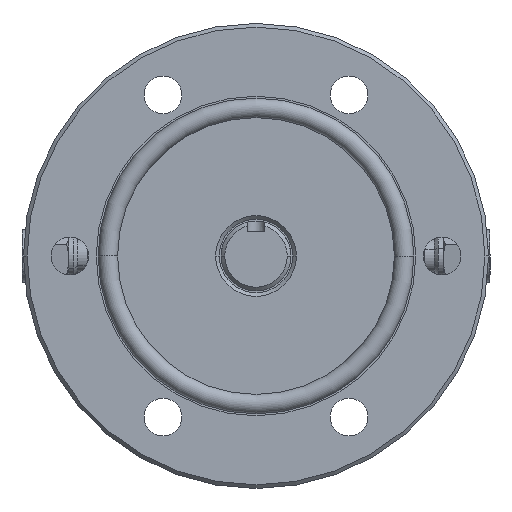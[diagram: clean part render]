
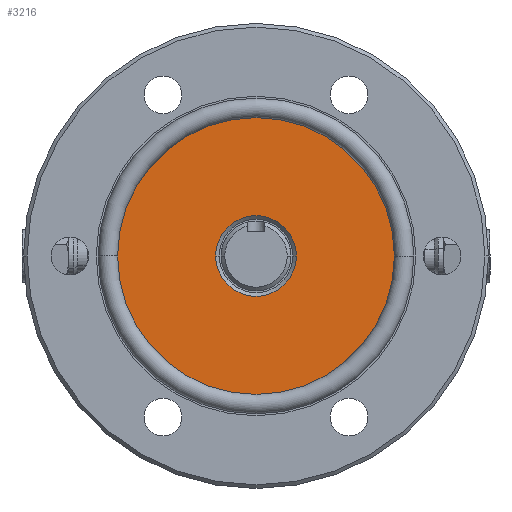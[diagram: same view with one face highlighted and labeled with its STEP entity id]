
A CAD part, left-side view. The second image highlights one B-rep face of the part: STEP entity #3216.
In plain terms, the highlighted planar face has unit normal (-1, 0, 0).
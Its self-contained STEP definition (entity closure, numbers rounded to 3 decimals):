
#118 = EDGE_CURVE ( 'NONE', #123, #28315, #3999, .T. ) ;
#123 = VERTEX_POINT ( 'NONE', #4048 ) ;
#220 = VERTEX_POINT ( 'NONE', #4452 ) ;
#222 = EDGE_CURVE ( 'NONE', #223, #220, #4451, .T. ) ;
#223 = VERTEX_POINT ( 'NONE', #4522 ) ;
#3100 = EDGE_CURVE ( 'NONE', #28315, #123, #24710, .T. ) ;
#3215 = EDGE_CURVE ( 'NONE', #220, #223, #24867, .T. ) ;
#3216 = ADVANCED_FACE ( 'NONE', ( #24862, #24861 ), #24860, .T. ) ;
#3217 = EDGE_LOOP ( 'NONE', ( #3218, #3219 ) ) ;
#3218 = ORIENTED_EDGE ( 'NONE', *, *, #222, .T. ) ;
#3219 = ORIENTED_EDGE ( 'NONE', *, *, #3215, .T. ) ;
#3220 = EDGE_LOOP ( 'NONE', ( #3221, #3222 ) ) ;
#3221 = ORIENTED_EDGE ( 'NONE', *, *, #118, .T. ) ;
#3222 = ORIENTED_EDGE ( 'NONE', *, *, #3100, .T. ) ;
#3996 = DIRECTION ( 'NONE',  ( -1., 0., 0. ) ) ;
#3997 = CARTESIAN_POINT ( 'NONE',  ( 67.8, 0., 0. ) ) ;
#3998 = AXIS2_PLACEMENT_3D ( 'NONE', #3997, #3996, #4049 ) ;
#3999 = CIRCLE ( 'NONE', #3998, 37.785 ) ;
#4048 = CARTESIAN_POINT ( 'NONE',  ( 67.8, -37.785, 0. ) ) ;
#4049 = DIRECTION ( 'NONE',  ( 0., -1., 0. ) ) ;
#4449 = CARTESIAN_POINT ( 'NONE',  ( 67.8, 0., 0. ) ) ;
#4450 = AXIS2_PLACEMENT_3D ( 'NONE', #4449, #4524, #4523 ) ;
#4451 = CIRCLE ( 'NONE', #4450, 11.025 ) ;
#4452 = CARTESIAN_POINT ( 'NONE',  ( 67.8, 11.025, 0. ) ) ;
#4522 = CARTESIAN_POINT ( 'NONE',  ( 67.8, -11.025, 0. ) ) ;
#4523 = DIRECTION ( 'NONE',  ( 0., -1., 0. ) ) ;
#4524 = DIRECTION ( 'NONE',  ( 1., 0., 0. ) ) ;
#24707 = DIRECTION ( 'NONE',  ( 0., -1., 0. ) ) ;
#24708 = DIRECTION ( 'NONE',  ( -1., 0., 0. ) ) ;
#24709 = AXIS2_PLACEMENT_3D ( 'NONE', #24715, #24708, #24707 ) ;
#24710 = CIRCLE ( 'NONE', #24709, 37.785 ) ;
#24715 = CARTESIAN_POINT ( 'NONE',  ( 67.8, 0., 0. ) ) ;
#24856 = DIRECTION ( 'NONE',  ( 0., -1., 0. ) ) ;
#24857 = DIRECTION ( 'NONE',  ( -1., 0., 0. ) ) ;
#24858 = CARTESIAN_POINT ( 'NONE',  ( 67.8, 9.525, 0. ) ) ;
#24859 = AXIS2_PLACEMENT_3D ( 'NONE', #24858, #24857, #24856 ) ;
#24860 = PLANE ( 'NONE',  #24859 ) ;
#24861 = FACE_OUTER_BOUND ( 'NONE', #3220, .T. ) ;
#24862 = FACE_BOUND ( 'NONE', #3217, .T. ) ;
#24863 = DIRECTION ( 'NONE',  ( 0., -1., 0. ) ) ;
#24864 = DIRECTION ( 'NONE',  ( 1., 0., 0. ) ) ;
#24865 = CARTESIAN_POINT ( 'NONE',  ( 67.8, 0., 0. ) ) ;
#24866 = AXIS2_PLACEMENT_3D ( 'NONE', #24865, #24864, #24863 ) ;
#24867 = CIRCLE ( 'NONE', #24866, 11.025 ) ;
#27509 = CARTESIAN_POINT ( 'NONE',  ( 67.8, 37.785, 0. ) ) ;
#28315 = VERTEX_POINT ( 'NONE', #27509 ) ;
